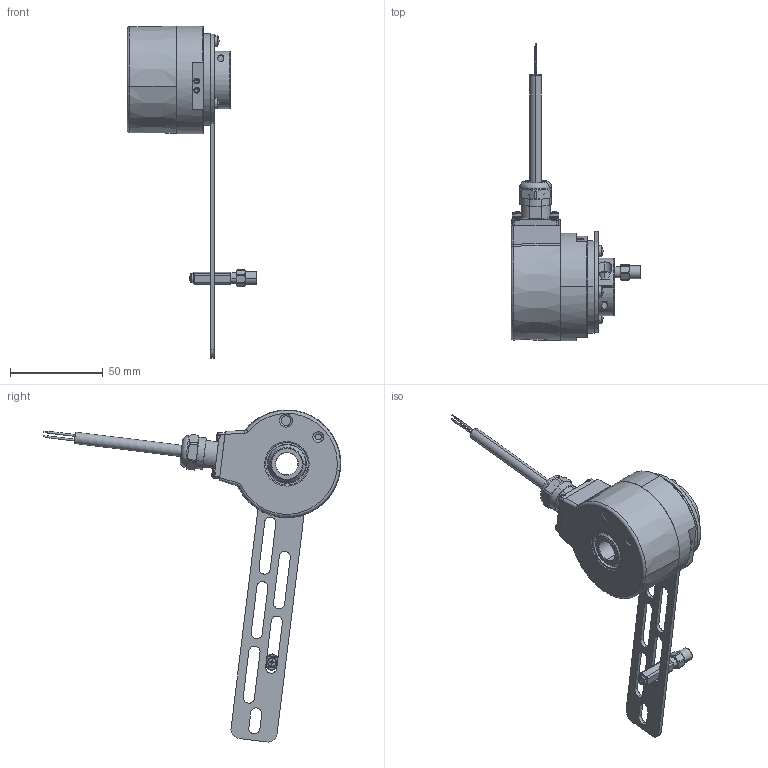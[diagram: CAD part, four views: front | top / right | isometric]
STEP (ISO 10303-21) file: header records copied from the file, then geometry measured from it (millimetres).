
FILE_DESCRIPTION (( 'STEP AP214' ), '1' );
FILE_NAME ('5834SIL.A4X2.XXXX.STEP', '2010-08-13T07:52:30', ( 'admin' ), ( 'Fritz Kübler GmbH' ), 'SwSTEP 2.0', 'SolidWorks 2009', '' );
FILE_SCHEMA (( 'AUTOMOTIVE_DESIGN' ));
Length unit declared in the file: millimetre
Products named in the file (1): 5834SIL.A4X2.XXXX
Bounding box: 70 x 160.21 x 178.83 mm (x, y, z)
Surface area: 35053.5 mm2 (no closed solid volume)
Topology: 0 solids, 25 shells, 423 faces, 1206 edges, 806 vertices
Faces by surface type: plane 169, cylinder 135, cone 77, torus 22, sphere 16, bspline 4
Entity records: 19400 total; most frequent: CARTESIAN_POINT 3504, DIRECTION 2512, ORIENTED_EDGE 2106, EDGE_CURVE 1206, AXIS2_PLACEMENT_3D 984, VERTEX_POINT 806, CIRCLE 564, VECTOR 544
